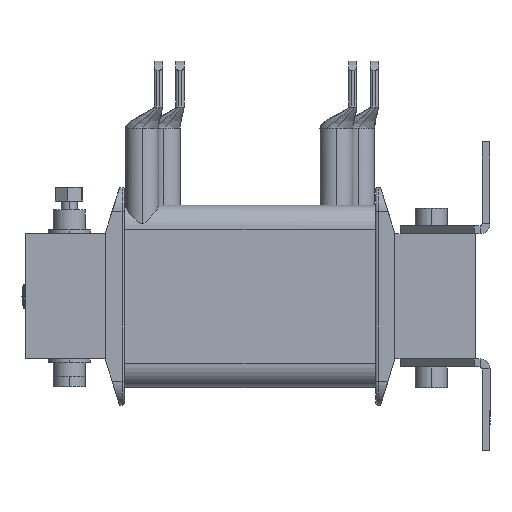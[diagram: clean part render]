
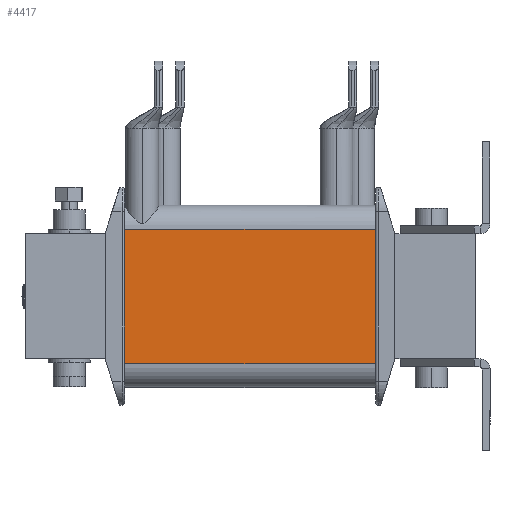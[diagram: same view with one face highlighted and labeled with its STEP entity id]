
A CAD part, left-side view. The second image highlights one B-rep face of the part: STEP entity #4417.
In plain terms, the highlighted planar face has unit normal (-1, 0, 0).
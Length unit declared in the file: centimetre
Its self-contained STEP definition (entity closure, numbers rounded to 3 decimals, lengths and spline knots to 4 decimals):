
#77 = LINE ( 'NONE', #3531, #15483 ) ;
#1499 = LINE ( 'NONE', #7744, #2227 ) ;
#1966 = DIRECTION ( 'NONE',  ( 0., 0., -1. ) ) ;
#2227 = VECTOR ( 'NONE', #7666, 100. ) ;
#3077 = DIRECTION ( 'NONE',  ( 0., -1., 0. ) ) ;
#3531 = CARTESIAN_POINT ( 'NONE',  ( -12.61, 18.275, -3.36 ) ) ;
#3561 = VERTEX_POINT ( 'NONE', #12036 ) ;
#4255 = LINE ( 'NONE', #7625, #4343 ) ;
#4283 = ORIENTED_EDGE ( 'NONE', *, *, #10228, .T. ) ;
#4343 = VECTOR ( 'NONE', #3077, 100. ) ;
#4417 = ADVANCED_FACE ( 'NONE', ( #5875 ), #7087, .F. ) ;
#4612 = EDGE_CURVE ( 'NONE', #5381, #3561, #4255, .T. ) ;
#5381 = VERTEX_POINT ( 'NONE', #13095 ) ;
#5875 = FACE_OUTER_BOUND ( 'NONE', #6909, .T. ) ;
#6493 = ORIENTED_EDGE ( 'NONE', *, *, #7579, .T. ) ;
#6909 = EDGE_LOOP ( 'NONE', ( #9966, #6493, #4283, #7802 ) ) ;
#7046 = VERTEX_POINT ( 'NONE', #8622 ) ;
#7087 = PLANE ( 'NONE',  #12116 ) ;
#7341 = EDGE_CURVE ( 'NONE', #7046, #5381, #77, .T. ) ;
#7579 = EDGE_CURVE ( 'NONE', #7046, #7949, #1499, .T. ) ;
#7625 = CARTESIAN_POINT ( 'NONE',  ( -12.61, 30.1594, 3.36 ) ) ;
#7666 = DIRECTION ( 'NONE',  ( 0., -1., 0. ) ) ;
#7744 = CARTESIAN_POINT ( 'NONE',  ( -12.61, 30.1594, -3.36 ) ) ;
#7802 = ORIENTED_EDGE ( 'NONE', *, *, #4612, .F. ) ;
#7949 = VERTEX_POINT ( 'NONE', #9089 ) ;
#8189 = CARTESIAN_POINT ( 'NONE',  ( -12.61, 30.1594, -3.36 ) ) ;
#8622 = CARTESIAN_POINT ( 'NONE',  ( -12.61, 18.275, -3.36 ) ) ;
#9089 = CARTESIAN_POINT ( 'NONE',  ( -12.61, 5.725, -3.36 ) ) ;
#9398 = DIRECTION ( 'NONE',  ( 1., 0., 0. ) ) ;
#9966 = ORIENTED_EDGE ( 'NONE', *, *, #7341, .F. ) ;
#10228 = EDGE_CURVE ( 'NONE', #7949, #3561, #15225, .T. ) ;
#11253 = VECTOR ( 'NONE', #11583, 100. ) ;
#11583 = DIRECTION ( 'NONE',  ( 0., 0., 1. ) ) ;
#12036 = CARTESIAN_POINT ( 'NONE',  ( -12.61, 5.725, 3.36 ) ) ;
#12116 = AXIS2_PLACEMENT_3D ( 'NONE', #8189, #9398, #1966 ) ;
#13011 = CARTESIAN_POINT ( 'NONE',  ( -12.61, 5.725, -3.36 ) ) ;
#13095 = CARTESIAN_POINT ( 'NONE',  ( -12.61, 18.275, 3.36 ) ) ;
#13438 = DIRECTION ( 'NONE',  ( 0., 0., 1. ) ) ;
#15225 = LINE ( 'NONE', #13011, #11253 ) ;
#15483 = VECTOR ( 'NONE', #13438, 100. ) ;
